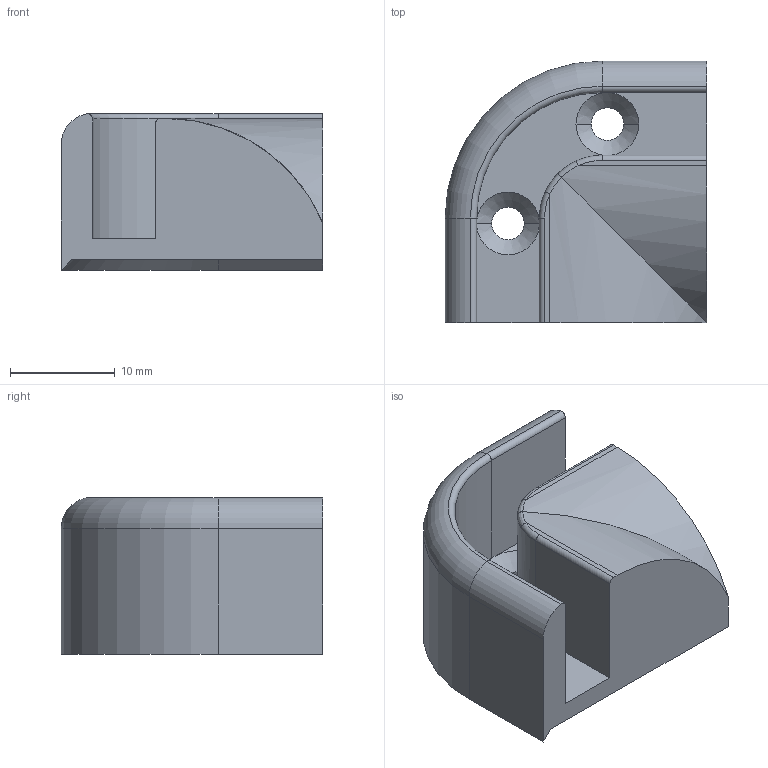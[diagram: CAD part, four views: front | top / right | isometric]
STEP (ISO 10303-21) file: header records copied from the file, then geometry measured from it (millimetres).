
FILE_DESCRIPTION (( 'STEP AP203' ), '1' );
FILE_NAME ('F025215.STEP', '2017-03-22T12:54:16', ( 'Localadmin' ), ( 'Microsoft' ), 'SwSTEP 2.0', 'SolidWorks 2016', '' );
FILE_SCHEMA (( 'CONFIG_CONTROL_DESIGN' ));
Length unit declared in the file: millimetre
Products named in the file (1): F025215
Bounding box: 25 x 25 x 14.95 mm (x, y, z)
Volume: 3678.5 mm3; surface area: 3499 mm2
Topology: 1 solids, 1 shells, 60 faces, 145 edges, 84 vertices
Faces by surface type: cylinder 23, plane 20, torus 6, cone 5, bspline 4, sphere 2
Entity records: 1921 total; most frequent: CARTESIAN_POINT 460, DIRECTION 299, ORIENTED_EDGE 286, EDGE_CURVE 143, AXIS2_PLACEMENT_3D 114, VERTEX_POINT 84, VECTOR 71, LINE 71
